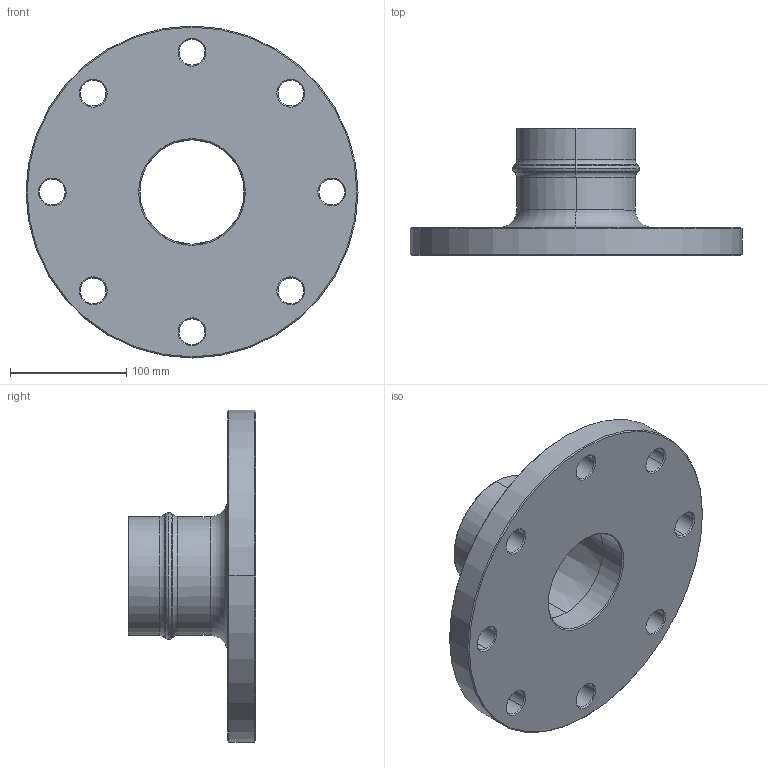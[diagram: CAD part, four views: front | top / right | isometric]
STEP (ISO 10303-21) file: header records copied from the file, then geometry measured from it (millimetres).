
FILE_DESCRIPTION((''),'2;1');
FILE_NAME('AU15987100','2019-12-13T',('Administrator'),(''),'PRO/ENGINEER BY PARAMETRIC TECHNOLOGY CORPORATION, 2009360','PRO/ENGINEER BY PARAMETRIC TECHNOLOGY CORPORATION, 2009360','');
FILE_SCHEMA(('AUTOMOTIVE_DESIGN_CC2 { 1 2 10303 214 -1 1 5 2 }'));
Length unit declared in the file: millimetre
Products named in the file (1): AU15987100
Bounding box: 285 x 109.25 x 285 mm (x, y, z)
Volume: 1477270.7 mm3; surface area: 198617.3 mm2
Topology: 1 solids, 1 shells, 85 faces, 196 edges, 114 vertices
Faces by surface type: cone 44, cylinder 24, torus 14, plane 3
Entity records: 3073 total; most frequent: DIRECTION 494, CARTESIAN_POINT 395, ORIENTED_EDGE 392, AXIS2_PLACEMENT_3D 213, PRESENTATION_STYLE_ASSIGNMENT 197, STYLED_ITEM 197, CURVE_STYLE 196, EDGE_CURVE 196
